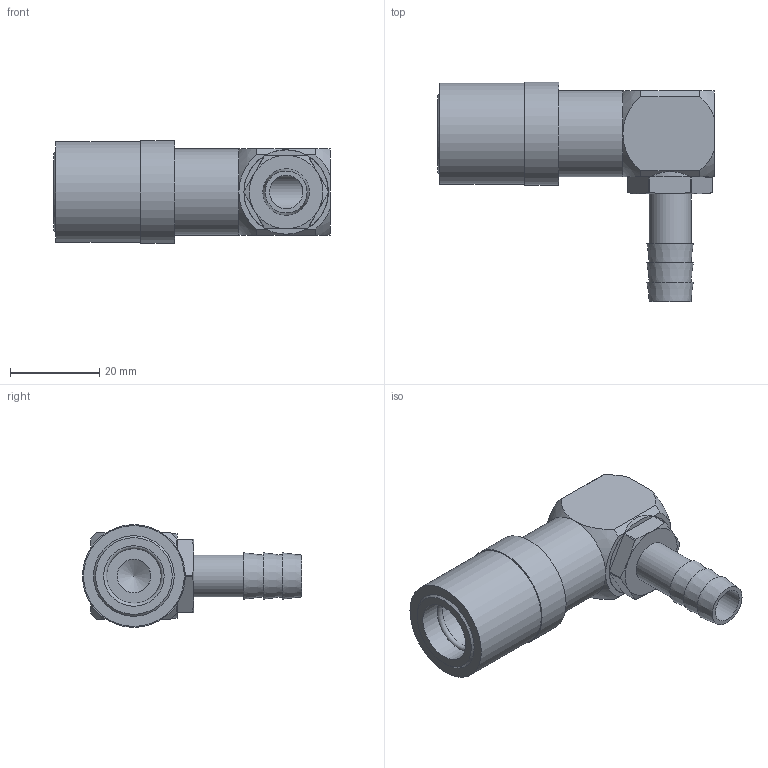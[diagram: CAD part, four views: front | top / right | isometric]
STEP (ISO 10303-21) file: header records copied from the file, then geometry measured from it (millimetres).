
FILE_DESCRIPTION(/* description */ ('STEP AP214'),/* implementation_level */ '2;1');
FILE_NAME(/* name */ 'JS-316-V',/* time_stamp */ '2024-12-19T08:41:40+01:00',/* author */ ('License CC BY-ND 4.0'),/* organization */ ('CADENAS'),/* preprocessor_version */ 'ST-DEVELOPER v19.3',/* originating_system */ 'PARTsolutions',/* authorisation */ ' ');
FILE_SCHEMA (('AUTOMOTIVE_DESIGN {1 0 10303 214 3 1 1}'));
Length unit declared in the file: inch
Products named in the file (1): JS-316-V
Bounding box: 62.07 x 49.12 x 23.06 mm (x, y, z)
Volume: 19688.2 mm3; surface area: 8582.6 mm2
Topology: 1 solids, 1 shells, 61 faces, 143 edges, 92 vertices
Faces by surface type: plane 32, cone 11, cylinder 9, sphere 8, torus 1
Full cylindrical faces by diameter (mm): 7.518 x2, 9.398 x1, 13.564 x2, 18.913 x1, 19.304 x1, 22.606 x1, 23.058 x1
Entity records: 1718 total; most frequent: CARTESIAN_POINT 317, DIRECTION 312, ORIENTED_EDGE 248, AXIS2_PLACEMENT_3D 140, EDGE_CURVE 124, VERTEX_POINT 89, FACE_BOUND 87, EDGE_LOOP 86
